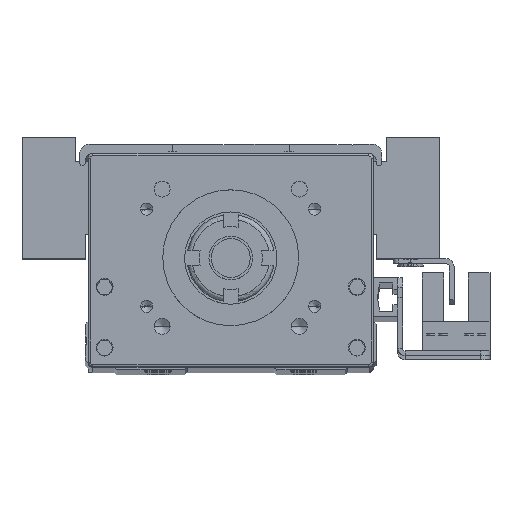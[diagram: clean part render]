
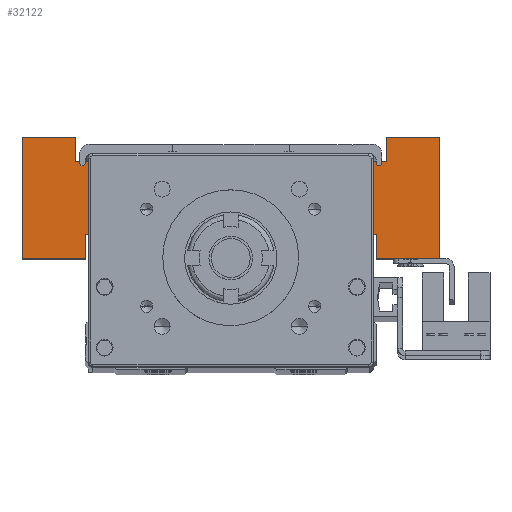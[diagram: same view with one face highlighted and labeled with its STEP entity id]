
A CAD part, top view. The second image highlights one B-rep face of the part: STEP entity #32122.
In plain terms, the highlighted planar face has unit normal (0, 0, 1) as drawn and (0, 1, 0) by its records, which use the part's own axes.
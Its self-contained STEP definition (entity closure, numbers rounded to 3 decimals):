
#165 = DIRECTION ( 'NONE',  ( 0., 0., -1. ) ) ;
#657 = CARTESIAN_POINT ( 'NONE',  ( 35.085, 18.194, 85.1 ) ) ;
#2499 = CARTESIAN_POINT ( 'NONE',  ( 35.085, 18.194, 60.1 ) ) ;
#2839 = CARTESIAN_POINT ( 'NONE',  ( 13.085, 18.194, 65.1 ) ) ;
#2858 = CARTESIAN_POINT ( 'NONE',  ( 35.085, 18.194, 60.1 ) ) ;
#3124 = ORIENTED_EDGE ( 'NONE', *, *, #12931, .F. ) ;
#3377 = VECTOR ( 'NONE', #68424, 1000. ) ;
#3597 = DIRECTION ( 'NONE',  ( 0., 0., -1. ) ) ;
#4528 = VECTOR ( 'NONE', #60449, 1000. ) ;
#5447 = EDGE_CURVE ( 'NONE', #34602, #57754, #50515, .T. ) ;
#5700 = EDGE_CURVE ( 'NONE', #70421, #10642, #22923, .T. ) ;
#6363 = FACE_OUTER_BOUND ( 'NONE', #40047, .T. ) ;
#6555 = EDGE_CURVE ( 'NONE', #9604, #28477, #39684, .T. ) ;
#6801 = CARTESIAN_POINT ( 'NONE',  ( 24.085, 18.194, 85.1 ) ) ;
#6832 = CARTESIAN_POINT ( 'NONE',  ( 13.085, 18.194, 70.1 ) ) ;
#7448 = CARTESIAN_POINT ( 'NONE',  ( -39.915, 18.194, 85.1 ) ) ;
#7995 = CARTESIAN_POINT ( 'NONE',  ( 24.085, 18.194, 80.1 ) ) ;
#8175 = CARTESIAN_POINT ( 'NONE',  ( -28.915, 18.194, 65.1 ) ) ;
#9604 = VERTEX_POINT ( 'NONE', #48794 ) ;
#9631 = CARTESIAN_POINT ( 'NONE',  ( -50.915, 18.194, 85.1 ) ) ;
#9771 = VERTEX_POINT ( 'NONE', #37923 ) ;
#10410 = DIRECTION ( 'NONE',  ( 0., 0., -1. ) ) ;
#10642 = VERTEX_POINT ( 'NONE', #9631 ) ;
#12464 = CARTESIAN_POINT ( 'NONE',  ( 22.085, 18.194, 60.1 ) ) ;
#12931 = EDGE_CURVE ( 'NONE', #30982, #70421, #58745, .T. ) ;
#13679 = ORIENTED_EDGE ( 'NONE', *, *, #23618, .F. ) ;
#15992 = LINE ( 'NONE', #6801, #49199 ) ;
#16014 = CARTESIAN_POINT ( 'NONE',  ( -7.915, 18.194, 70.1 ) ) ;
#17060 = LINE ( 'NONE', #53993, #66393 ) ;
#17106 = CARTESIAN_POINT ( 'NONE',  ( 13.085, 18.194, 70.1 ) ) ;
#17251 = VECTOR ( 'NONE', #41688, 1000. ) ;
#17992 = LINE ( 'NONE', #55162, #78713 ) ;
#18631 = LINE ( 'NONE', #8175, #3377 ) ;
#19105 = LINE ( 'NONE', #657, #55152 ) ;
#19642 = VECTOR ( 'NONE', #10410, 1000. ) ;
#21969 = EDGE_CURVE ( 'NONE', #30095, #75527, #69632, .T. ) ;
#22329 = CARTESIAN_POINT ( 'NONE',  ( -39.915, 18.194, 80.1 ) ) ;
#22458 = CARTESIAN_POINT ( 'NONE',  ( -37.915, 18.194, 60.1 ) ) ;
#22732 = VECTOR ( 'NONE', #44410, 1000. ) ;
#22923 = LINE ( 'NONE', #36622, #38163 ) ;
#23533 = DIRECTION ( 'NONE',  ( 0., 0., 1. ) ) ;
#23601 = EDGE_CURVE ( 'NONE', #9771, #9604, #49379, .T. ) ;
#23618 = EDGE_CURVE ( 'NONE', #59268, #46194, #17060, .T. ) ;
#25056 = VECTOR ( 'NONE', #53382, 1000. ) ;
#27519 = VERTEX_POINT ( 'NONE', #12464 ) ;
#28477 = VERTEX_POINT ( 'NONE', #17106 ) ;
#30095 = VERTEX_POINT ( 'NONE', #2499 ) ;
#30812 = DIRECTION ( 'NONE',  ( -1., 0., 0. ) ) ;
#30982 = VERTEX_POINT ( 'NONE', #22329 ) ;
#31428 = ORIENTED_EDGE ( 'NONE', *, *, #50522, .F. ) ;
#32122 = ADVANCED_FACE ( 'NONE', ( #6363 ), #75667, .F. ) ;
#33803 = VECTOR ( 'NONE', #3597, 1000. ) ;
#33831 = VERTEX_POINT ( 'NONE', #63397 ) ;
#34182 = VECTOR ( 'NONE', #23533, 1000. ) ;
#34602 = VERTEX_POINT ( 'NONE', #2839 ) ;
#34964 = LINE ( 'NONE', #70851, #52915 ) ;
#35245 = CARTESIAN_POINT ( 'NONE',  ( 22.085, 18.194, 65.1 ) ) ;
#36193 = EDGE_CURVE ( 'NONE', #57754, #27519, #43327, .T. ) ;
#36622 = CARTESIAN_POINT ( 'NONE',  ( -50.915, 18.194, 85.1 ) ) ;
#37036 = ORIENTED_EDGE ( 'NONE', *, *, #54516, .F. ) ;
#37923 = CARTESIAN_POINT ( 'NONE',  ( -28.915, 18.194, 65.1 ) ) ;
#38163 = VECTOR ( 'NONE', #30812, 1000. ) ;
#39684 = LINE ( 'NONE', #6832, #4528 ) ;
#40047 = EDGE_LOOP ( 'NONE', ( #71941, #59804, #51882, #59992, #60233, #46169, #45252, #54136, #67686, #31428, #46816, #13679, #77332, #69620, #3124, #37036 ) ) ;
#40190 = CARTESIAN_POINT ( 'NONE',  ( 13.085, 18.194, 70.1 ) ) ;
#41238 = DIRECTION ( 'NONE',  ( 1., 0., 0. ) ) ;
#41688 = DIRECTION ( 'NONE',  ( 1., 0., 0. ) ) ;
#43048 = DIRECTION ( 'NONE',  ( -1., 0., 0. ) ) ;
#43327 = LINE ( 'NONE', #64622, #33803 ) ;
#44410 = DIRECTION ( 'NONE',  ( 0., 0., 1. ) ) ;
#44607 = DIRECTION ( 'NONE',  ( 0., 0., 1. ) ) ;
#45252 = ORIENTED_EDGE ( 'NONE', *, *, #67204, .F. ) ;
#45469 = CARTESIAN_POINT ( 'NONE',  ( -50.915, 18.194, 60.1 ) ) ;
#46169 = ORIENTED_EDGE ( 'NONE', *, *, #5447, .F. ) ;
#46194 = VERTEX_POINT ( 'NONE', #22458 ) ;
#46816 = ORIENTED_EDGE ( 'NONE', *, *, #57537, .F. ) ;
#46904 = EDGE_CURVE ( 'NONE', #27519, #30095, #34964, .T. ) ;
#48453 = CARTESIAN_POINT ( 'NONE',  ( -28.915, 18.194, 70.1 ) ) ;
#48513 = CARTESIAN_POINT ( 'NONE',  ( -39.915, 18.194, 85.1 ) ) ;
#48794 = CARTESIAN_POINT ( 'NONE',  ( -28.915, 18.194, 70.1 ) ) ;
#49199 = VECTOR ( 'NONE', #165, 1000. ) ;
#49379 = LINE ( 'NONE', #48453, #34182 ) ;
#50515 = LINE ( 'NONE', #53548, #17251 ) ;
#50522 = EDGE_CURVE ( 'NONE', #33831, #9771, #18631, .T. ) ;
#51790 = AXIS2_PLACEMENT_3D ( 'NONE', #16014, #69845, #70356 ) ;
#51882 = ORIENTED_EDGE ( 'NONE', *, *, #21969, .F. ) ;
#52390 = VECTOR ( 'NONE', #70197, 1000. ) ;
#52915 = VECTOR ( 'NONE', #41238, 1000. ) ;
#53372 = LINE ( 'NONE', #57217, #52390 ) ;
#53382 = DIRECTION ( 'NONE',  ( 0., 0., -1. ) ) ;
#53548 = CARTESIAN_POINT ( 'NONE',  ( 13.085, 18.194, 65.1 ) ) ;
#53993 = CARTESIAN_POINT ( 'NONE',  ( -37.915, 18.194, 60.1 ) ) ;
#54136 = ORIENTED_EDGE ( 'NONE', *, *, #6555, .F. ) ;
#54367 = LINE ( 'NONE', #40190, #25056 ) ;
#54516 = EDGE_CURVE ( 'NONE', #61021, #30982, #17992, .T. ) ;
#55152 = VECTOR ( 'NONE', #55561, 1000. ) ;
#55162 = CARTESIAN_POINT ( 'NONE',  ( -39.915, 18.194, 80.1 ) ) ;
#55561 = DIRECTION ( 'NONE',  ( -1., 0., 0. ) ) ;
#57217 = CARTESIAN_POINT ( 'NONE',  ( -37.915, 18.194, 65.1 ) ) ;
#57293 = VECTOR ( 'NONE', #44607, 1000. ) ;
#57537 = EDGE_CURVE ( 'NONE', #46194, #33831, #53372, .T. ) ;
#57754 = VERTEX_POINT ( 'NONE', #35245 ) ;
#58745 = LINE ( 'NONE', #7448, #22732 ) ;
#59268 = VERTEX_POINT ( 'NONE', #69621 ) ;
#59583 = CARTESIAN_POINT ( 'NONE',  ( 35.085, 18.194, 85.1 ) ) ;
#59804 = ORIENTED_EDGE ( 'NONE', *, *, #69796, .F. ) ;
#59992 = ORIENTED_EDGE ( 'NONE', *, *, #46904, .F. ) ;
#60233 = ORIENTED_EDGE ( 'NONE', *, *, #36193, .F. ) ;
#60449 = DIRECTION ( 'NONE',  ( 1., 0., 0. ) ) ;
#60612 = DIRECTION ( 'NONE',  ( 1., 0., 0. ) ) ;
#61021 = VERTEX_POINT ( 'NONE', #7995 ) ;
#63269 = LINE ( 'NONE', #45469, #19642 ) ;
#63397 = CARTESIAN_POINT ( 'NONE',  ( -37.915, 18.194, 65.1 ) ) ;
#64157 = CARTESIAN_POINT ( 'NONE',  ( 24.085, 18.194, 85.1 ) ) ;
#64622 = CARTESIAN_POINT ( 'NONE',  ( 22.085, 18.194, 65.1 ) ) ;
#65419 = VERTEX_POINT ( 'NONE', #64157 ) ;
#66393 = VECTOR ( 'NONE', #60612, 1000. ) ;
#67204 = EDGE_CURVE ( 'NONE', #28477, #34602, #54367, .T. ) ;
#67686 = ORIENTED_EDGE ( 'NONE', *, *, #23601, .F. ) ;
#68424 = DIRECTION ( 'NONE',  ( 1., 0., 0. ) ) ;
#69620 = ORIENTED_EDGE ( 'NONE', *, *, #5700, .F. ) ;
#69621 = CARTESIAN_POINT ( 'NONE',  ( -50.915, 18.194, 60.1 ) ) ;
#69632 = LINE ( 'NONE', #2858, #57293 ) ;
#69796 = EDGE_CURVE ( 'NONE', #75527, #65419, #19105, .T. ) ;
#69845 = DIRECTION ( 'NONE',  ( 0., -1., 0. ) ) ;
#70197 = DIRECTION ( 'NONE',  ( 0., 0., 1. ) ) ;
#70356 = DIRECTION ( 'NONE',  ( 1., 0., 0. ) ) ;
#70421 = VERTEX_POINT ( 'NONE', #48513 ) ;
#70851 = CARTESIAN_POINT ( 'NONE',  ( 22.085, 18.194, 60.1 ) ) ;
#71941 = ORIENTED_EDGE ( 'NONE', *, *, #78066, .F. ) ;
#74506 = EDGE_CURVE ( 'NONE', #10642, #59268, #63269, .T. ) ;
#75527 = VERTEX_POINT ( 'NONE', #59583 ) ;
#75667 = PLANE ( 'NONE',  #51790 ) ;
#77332 = ORIENTED_EDGE ( 'NONE', *, *, #74506, .F. ) ;
#78066 = EDGE_CURVE ( 'NONE', #65419, #61021, #15992, .T. ) ;
#78713 = VECTOR ( 'NONE', #43048, 1000. ) ;
